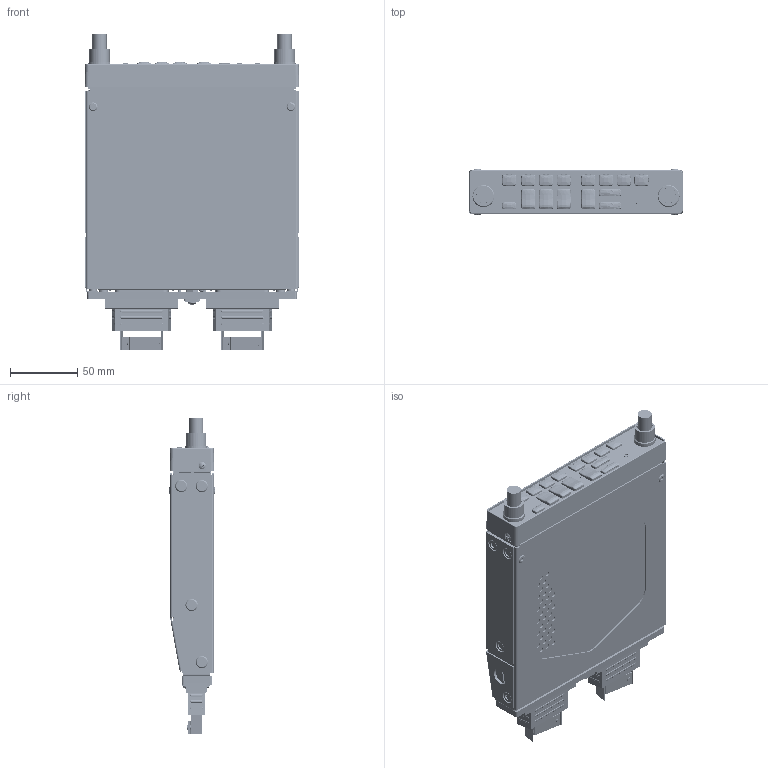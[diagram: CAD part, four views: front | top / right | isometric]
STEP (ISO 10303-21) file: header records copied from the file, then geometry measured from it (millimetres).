
FILE_DESCRIPTION (( 'STEP AP203' ), '1' );
FILE_NAME ('GMA240_rev1.STEP', '2017-09-01T17:15:41', ( 'Garmin' ), ( 'Garmin' ), 'SwSTEP 2.0', 'SolidWorks 2016', '' );
FILE_SCHEMA (( 'CONFIG_CONTROL_DESIGN' ));
Length unit declared in the file: millimetre
Products named in the file (1): GMA240_rev1
Bounding box: 160.02 x 33.66 x 235.79 mm (x, y, z)
Volume: 794439.4 mm3; surface area: 207330.9 mm2
Topology: 5 solids, 50 shells, 4955 faces, 11809 edges, 7567 vertices
Faces by surface type: plane 2169, cylinder 1204, bspline 759, cone 471, sphere 196, torus 156
Full cylindrical faces by diameter (mm): 0.762 x88, 1.397 x176, 2.159 x2, 2.5 x1, 2.54 x11, 2.845 x25, 2.921 x4, 3.048 x11, 3.175 x21, 3.302 x1, 3.454 x4, 3.505 x3, 3.683 x3, 3.81 x69, 3.962 x1, 4 x1, 4.318 x2, 4.343 x1, 4.369 x1, 4.572 x1, 4.826 x4, 5.08 x9, 5.429 x4, 5.563 x15, 6.477 x2, 6.858 x2, 7.239 x2, 9.144 x8, 9.525 x1, 10.615 x2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
Entity records: 163221 total; most frequent: CARTESIAN_POINT 56821, ORIENTED_EDGE 22100, DIRECTION 20325, EDGE_CURVE 11050, AXIS2_PLACEMENT_3D 7894, VERTEX_POINT 7429, EDGE_LOOP 6337, FACE_OUTER_BOUND 5522
